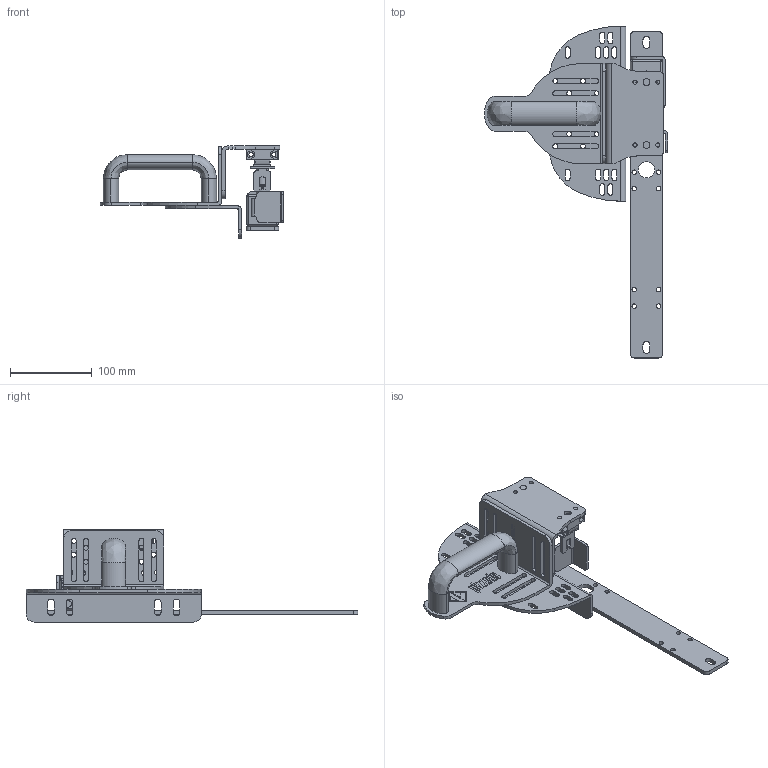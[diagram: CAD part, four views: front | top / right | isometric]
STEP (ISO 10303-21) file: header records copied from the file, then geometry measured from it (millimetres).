
FILE_DESCRIPTION (( 'STEP AP203' ), '1' );
FILE_NAME ('ZF_STEP_VF_AP-P11B-200P_A12.step', '2012-01-27T16:16:54', ( 'Pizzato Elettrica' ), ( '' ), 'SwSTEP 2.0', 'SolidWorks 2011', '' );
FILE_SCHEMA (( 'CONFIG_CONTROL_DESIGN' ));
Products named in the file (10): ZF_STEP_VF_AP-P11B-200P_A12; Pizzato_maniglia_plast_33222_33222; Pizzato_VF_KEYF28-F; Pizzato_piastra_33010_33010; Pizzato_piastra_33020_33020; Pizzato_piastra_33030_33030; Pizzato_perno_33080_33080; Pizzato_coperchio_lock_out_33070_33070; Pizzato_piastra_33000_33000_antipanico; Pizzato_blocco_lock_out_33054
Assembly tree (9 placements, depth 2):
  ZF_STEP_VF_AP-P11B-200P_A12
    Pizzato_blocco_lock_out_33054
    Pizzato_piastra_33030_33030
    Pizzato_piastra_33000_33000_antipanico
    Pizzato_VF_KEYF28-F
    Pizzato_piastra_33020_33020
    Pizzato_perno_33080_33080
    Pizzato_maniglia_plast_33222_33222
    Pizzato_piastra_33010_33010
    Pizzato_coperchio_lock_out_33070_33070
Bounding box: 224.7 x 407 x 113 mm (x, y, z)
Volume: 499612.8 mm3; surface area: 225734.5 mm2
Topology: 9 solids, 9 shells, 1273 faces, 3351 edges, 2171 vertices
Faces by surface type: plane 677, cylinder 439, bspline 131, sphere 10, torus 10, cone 6
Entity records: 46056 total; most frequent: CARTESIAN_POINT 13682, ORIENTED_EDGE 6678, DIRECTION 6126, EDGE_CURVE 3339, VECTOR 2180, LINE 2180, VERTEX_POINT 2169, AXIS2_PLACEMENT_3D 1973
